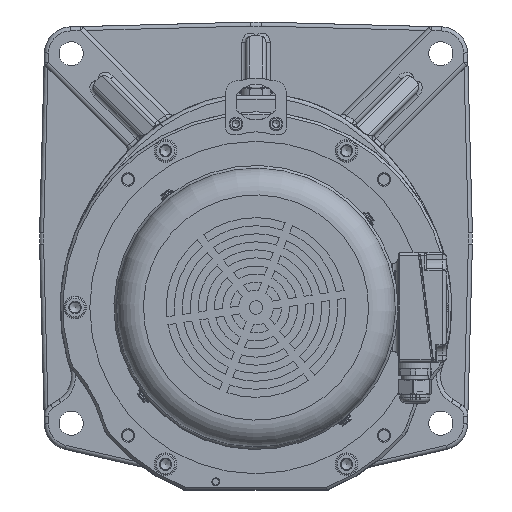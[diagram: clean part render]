
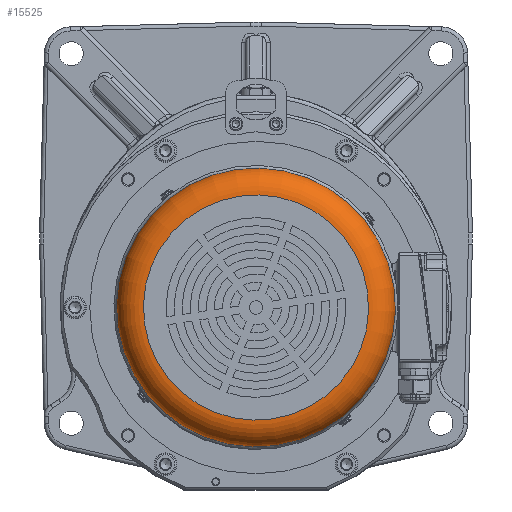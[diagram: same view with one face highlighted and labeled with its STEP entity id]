
A CAD part, left-side view. The second image highlights one B-rep face of the part: STEP entity #15525.
In plain terms, the highlighted toroidal (fillet/blend) face has major radius 84 mm and minor radius 20 mm.
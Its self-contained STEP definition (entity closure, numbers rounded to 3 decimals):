
#1714=TOROIDAL_SURFACE('',#65860,84.,20.);
#1863=FACE_BOUND('',#23054,.T.);
#1864=FACE_BOUND('',#23055,.T.);
#15525=ADVANCED_FACE('',(#1863,#1864),#1714,.T.);
#23054=EDGE_LOOP('',(#30587));
#23055=EDGE_LOOP('',(#30588));
#30587=ORIENTED_EDGE('',*,*,#54416,.T.);
#30588=ORIENTED_EDGE('',*,*,#54417,.F.);
#47972=VERTEX_POINT('',#94570);
#47973=VERTEX_POINT('',#94572);
#54416=EDGE_CURVE('',#47972,#47972,#63096,.T.);
#54417=EDGE_CURVE('',#47973,#47973,#63097,.T.);
#63096=CIRCLE('',#65858,84.);
#63097=CIRCLE('',#65859,104.);
#65858=AXIS2_PLACEMENT_3D('',#94569,#72820,#72821);
#65859=AXIS2_PLACEMENT_3D('',#94571,#72822,#72823);
#65860=AXIS2_PLACEMENT_3D('',#94573,#72824,#72825);
#72820=DIRECTION('',(1.,0.,0.));
#72821=DIRECTION('',(0.,-0.622,-0.783));
#72822=DIRECTION('',(1.,0.,0.));
#72823=DIRECTION('',(0.,-0.622,-0.783));
#72824=DIRECTION('',(1.,0.,0.));
#72825=DIRECTION('',(0.,-0.622,-0.783));
#94569=CARTESIAN_POINT('',(3493.53,3199.462,-1383.489));
#94570=CARTESIAN_POINT('',(3493.53,3147.205,-1449.256));
#94571=CARTESIAN_POINT('',(3513.53,3199.462,-1383.489));
#94572=CARTESIAN_POINT('',(3513.53,3134.763,-1464.915));
#94573=CARTESIAN_POINT('',(3513.53,3199.462,-1383.489));
